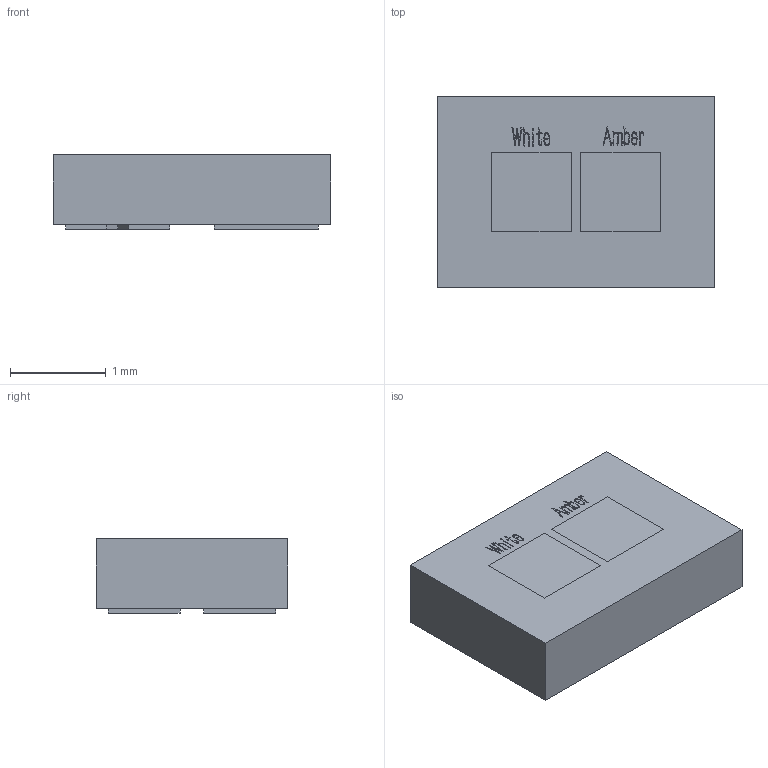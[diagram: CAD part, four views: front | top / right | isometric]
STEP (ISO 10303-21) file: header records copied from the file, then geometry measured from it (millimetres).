
FILE_DESCRIPTION (( 'STEP AP214' ), '1' );
FILE_NAME ('ACL2.STEP', '2024-01-24T18:49:10', ( '' ), ( '' ), 'SwSTEP 2.0', 'SolidWorks 2022', '' );
FILE_SCHEMA (( 'AUTOMOTIVE_DESIGN' ));
Length unit declared in the file: millimetre
Products named in the file (1): ACL2
Bounding box: 2.9 x 2 x 0.78 mm (x, y, z)
Volume: 4.4 mm3; surface area: 19.5 mm2
Topology: 1 solids, 1 shells, 267 faces, 740 edges, 496 vertices
Faces by surface type: plane 169, bspline 98
Entity records: 12943 total; most frequent: CARTESIAN_POINT 6554, ORIENTED_EDGE 1480, DIRECTION 884, EDGE_CURVE 740, VECTOR 544, LINE 544, VERTEX_POINT 496, EDGE_LOOP 288
